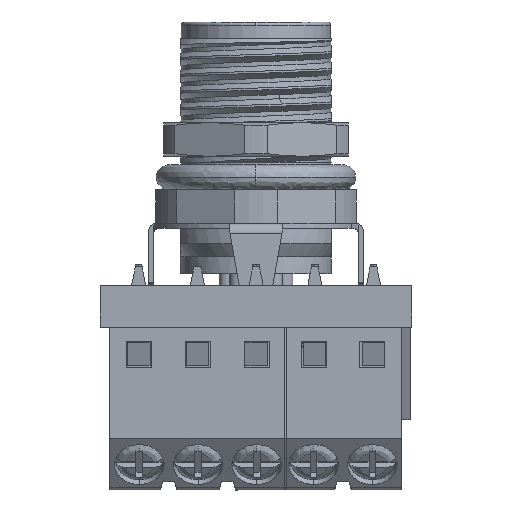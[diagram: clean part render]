
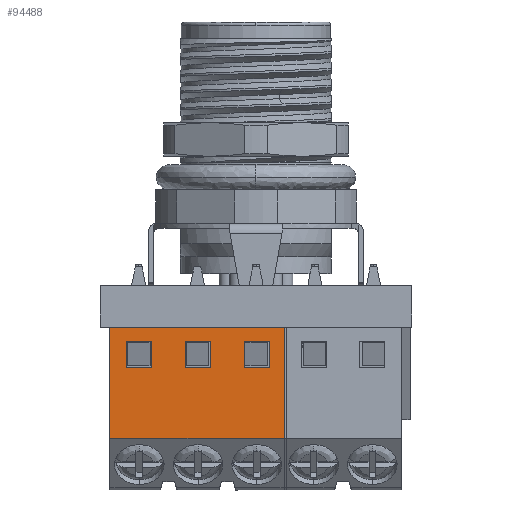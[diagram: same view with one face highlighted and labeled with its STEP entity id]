
A CAD part, left-side view. The second image highlights one B-rep face of the part: STEP entity #94488.
In plain terms, the highlighted planar face has unit normal (-1, 0, 0).
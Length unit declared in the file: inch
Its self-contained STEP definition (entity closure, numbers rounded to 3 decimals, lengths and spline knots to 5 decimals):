
#153 = CARTESIAN_POINT ( 'NONE',  ( -0.39764, -0.03937, -0.13031 ) ) ;
#486 = DIRECTION ( 'NONE',  ( 0., 0., -1. ) ) ;
#512 = VECTOR ( 'NONE', #82589, 39.37008 ) ;
#2300 = ORIENTED_EDGE ( 'NONE', *, *, #2577, .F. ) ;
#2531 = LINE ( 'NONE', #46534, #30513 ) ;
#2577 = EDGE_CURVE ( 'NONE', #52016, #7891, #63461, .T. ) ;
#2912 = EDGE_CURVE ( 'NONE', #76467, #70290, #52865, .T. ) ;
#3423 = DIRECTION ( 'NONE',  ( 0., -1., 0. ) ) ;
#4397 = CARTESIAN_POINT ( 'NONE',  ( -0.39764, -0.20669, -0.09449 ) ) ;
#4994 = EDGE_CURVE ( 'NONE', #73280, #76169, #7948, .T. ) ;
#5262 = CARTESIAN_POINT ( 'NONE',  ( -0.39764, -0.20669, -0.13031 ) ) ;
#5862 = EDGE_CURVE ( 'NONE', #41956, #44037, #80095, .T. ) ;
#7324 = CARTESIAN_POINT ( 'NONE',  ( -0.39764, -0.31496, -0.13031 ) ) ;
#7458 = EDGE_CURVE ( 'NONE', #72368, #67769, #20278, .T. ) ;
#7891 = VERTEX_POINT ( 'NONE', #72152 ) ;
#7900 = EDGE_CURVE ( 'NONE', #76169, #76467, #11968, .T. ) ;
#7948 = LINE ( 'NONE', #15837, #19742 ) ;
#8272 = DIRECTION ( 'NONE',  ( 0., -1., 0. ) ) ;
#8313 = CARTESIAN_POINT ( 'NONE',  ( -0.39764, -0.37402, -0.13031 ) ) ;
#9886 = EDGE_CURVE ( 'NONE', #70290, #73280, #32319, .T. ) ;
#11479 = EDGE_LOOP ( 'NONE', ( #30585, #42566, #78873, #48207 ) ) ;
#11532 = VERTEX_POINT ( 'NONE', #82710 ) ;
#11968 = LINE ( 'NONE', #88407, #36461 ) ;
#12927 = VERTEX_POINT ( 'NONE', #95755 ) ;
#13110 = VERTEX_POINT ( 'NONE', #22806 ) ;
#13367 = ORIENTED_EDGE ( 'NONE', *, *, #2912, .F. ) ;
#13650 = VECTOR ( 'NONE', #93299, 39.37008 ) ;
#14025 = ORIENTED_EDGE ( 'NONE', *, *, #7900, .F. ) ;
#14733 = LINE ( 'NONE', #78219, #66095 ) ;
#15830 = DIRECTION ( 'NONE',  ( 0., 1., 0. ) ) ;
#15837 = CARTESIAN_POINT ( 'NONE',  ( -0.39764, -0.20669, -0.09449 ) ) ;
#15863 = CARTESIAN_POINT ( 'NONE',  ( -0.39764, -0.17717, -0.09449 ) ) ;
#15887 = DIRECTION ( 'NONE',  ( 0., 0., 1. ) ) ;
#15939 = EDGE_CURVE ( 'NONE', #12927, #82815, #14733, .T. ) ;
#17054 = FACE_BOUND ( 'NONE', #86150, .T. ) ;
#18202 = FACE_OUTER_BOUND ( 'NONE', #11479, .T. ) ;
#18922 = LINE ( 'NONE', #8313, #95786 ) ;
#19429 = FACE_BOUND ( 'NONE', #47969, .T. ) ;
#19662 = DIRECTION ( 'NONE',  ( 0., 1., 0. ) ) ;
#19742 = VECTOR ( 'NONE', #8272, 39.37008 ) ;
#20278 = LINE ( 'NONE', #90758, #38828 ) ;
#20771 = DIRECTION ( 'NONE',  ( 0., 0., -1. ) ) ;
#21188 = CARTESIAN_POINT ( 'NONE',  ( -0.39764, -0.23622, -0.09449 ) ) ;
#22634 = CARTESIAN_POINT ( 'NONE',  ( -0.39764, -0.23622, -0.03346 ) ) ;
#22806 = CARTESIAN_POINT ( 'NONE',  ( -0.39764, -0.31496, -0.09449 ) ) ;
#25915 = ORIENTED_EDGE ( 'NONE', *, *, #15939, .F. ) ;
#26206 = EDGE_CURVE ( 'NONE', #67769, #44037, #55340, .T. ) ;
#26923 = EDGE_CURVE ( 'NONE', #7891, #36830, #44831, .T. ) ;
#27535 = DIRECTION ( 'NONE',  ( 0., 0., 1. ) ) ;
#28069 = EDGE_CURVE ( 'NONE', #31261, #12927, #18922, .T. ) ;
#29540 = DIRECTION ( 'NONE',  ( 0., 0., 1. ) ) ;
#30513 = VECTOR ( 'NONE', #77420, 39.37008 ) ;
#30585 = ORIENTED_EDGE ( 'NONE', *, *, #5862, .T. ) ;
#31092 = EDGE_CURVE ( 'NONE', #13110, #31261, #67016, .T. ) ;
#31154 = CARTESIAN_POINT ( 'NONE',  ( -0.39764, -0.17717, -0.03346 ) ) ;
#31261 = VERTEX_POINT ( 'NONE', #71457 ) ;
#32319 = LINE ( 'NONE', #65004, #76595 ) ;
#34653 = PLANE ( 'NONE',  #56505 ) ;
#36461 = VECTOR ( 'NONE', #27535, 39.37008 ) ;
#36830 = VERTEX_POINT ( 'NONE', #38250 ) ;
#38250 = CARTESIAN_POINT ( 'NONE',  ( -0.39764, -0.09843, -0.09449 ) ) ;
#38828 = VECTOR ( 'NONE', #15887, 39.37008 ) ;
#39730 = ORIENTED_EDGE ( 'NONE', *, *, #53404, .F. ) ;
#41242 = VECTOR ( 'NONE', #93664, 39.37008 ) ;
#41956 = VERTEX_POINT ( 'NONE', #53933 ) ;
#42566 = ORIENTED_EDGE ( 'NONE', *, *, #26206, .F. ) ;
#42632 = ORIENTED_EDGE ( 'NONE', *, *, #28069, .F. ) ;
#43732 = ORIENTED_EDGE ( 'NONE', *, *, #9886, .F. ) ;
#44037 = VERTEX_POINT ( 'NONE', #94580 ) ;
#44532 = DIRECTION ( 'NONE',  ( 0., 0., -1. ) ) ;
#44831 = LINE ( 'NONE', #4397, #69300 ) ;
#46534 = CARTESIAN_POINT ( 'NONE',  ( -0.39764, -0.09843, -0.13031 ) ) ;
#47969 = EDGE_LOOP ( 'NONE', ( #14025, #51267, #43732, #13367 ) ) ;
#48207 = ORIENTED_EDGE ( 'NONE', *, *, #94118, .F. ) ;
#49614 = DIRECTION ( 'NONE',  ( 1., 0., 0. ) ) ;
#51267 = ORIENTED_EDGE ( 'NONE', *, *, #4994, .F. ) ;
#52016 = VERTEX_POINT ( 'NONE', #87583 ) ;
#52865 = LINE ( 'NONE', #63048, #41242 ) ;
#52918 = CARTESIAN_POINT ( 'NONE',  ( -0.39764, -0.20669, -0.26063 ) ) ;
#53080 = FACE_BOUND ( 'NONE', #75619, .T. ) ;
#53142 = EDGE_CURVE ( 'NONE', #82815, #13110, #93137, .T. ) ;
#53199 = VECTOR ( 'NONE', #15830, 39.37008 ) ;
#53404 = EDGE_CURVE ( 'NONE', #11532, #52016, #66303, .T. ) ;
#53933 = CARTESIAN_POINT ( 'NONE',  ( -0.39764, -0.41339, -0.26063 ) ) ;
#55340 = LINE ( 'NONE', #60414, #512 ) ;
#56505 = AXIS2_PLACEMENT_3D ( 'NONE', #5262, #49614, #86071 ) ;
#57196 = CARTESIAN_POINT ( 'NONE',  ( -0.39764, -0.31496, -0.03346 ) ) ;
#60414 = CARTESIAN_POINT ( 'NONE',  ( -0.39764, -0.1378, 0. ) ) ;
#61091 = VECTOR ( 'NONE', #486, 39.37008 ) ;
#63048 = CARTESIAN_POINT ( 'NONE',  ( -0.39764, -0.20669, -0.03346 ) ) ;
#63461 = LINE ( 'NONE', #153, #61091 ) ;
#65004 = CARTESIAN_POINT ( 'NONE',  ( -0.39764, -0.17717, -0.13031 ) ) ;
#65118 = ORIENTED_EDGE ( 'NONE', *, *, #26923, .F. ) ;
#65894 = VECTOR ( 'NONE', #93290, 39.37008 ) ;
#66075 = ORIENTED_EDGE ( 'NONE', *, *, #53142, .F. ) ;
#66095 = VECTOR ( 'NONE', #19662, 39.37008 ) ;
#66303 = LINE ( 'NONE', #87404, #75553 ) ;
#67016 = LINE ( 'NONE', #78299, #65894 ) ;
#67769 = VERTEX_POINT ( 'NONE', #96216 ) ;
#69300 = VECTOR ( 'NONE', #3423, 39.37008 ) ;
#70290 = VERTEX_POINT ( 'NONE', #31154 ) ;
#71457 = CARTESIAN_POINT ( 'NONE',  ( -0.39764, -0.37402, -0.09449 ) ) ;
#72152 = CARTESIAN_POINT ( 'NONE',  ( -0.39764, -0.03937, -0.09449 ) ) ;
#72368 = VERTEX_POINT ( 'NONE', #83584 ) ;
#73280 = VERTEX_POINT ( 'NONE', #15863 ) ;
#74195 = ORIENTED_EDGE ( 'NONE', *, *, #31092, .F. ) ;
#75354 = LINE ( 'NONE', #52918, #53199 ) ;
#75553 = VECTOR ( 'NONE', #86090, 39.37008 ) ;
#75619 = EDGE_LOOP ( 'NONE', ( #65118, #2300, #39730, #95369 ) ) ;
#76169 = VERTEX_POINT ( 'NONE', #21188 ) ;
#76467 = VERTEX_POINT ( 'NONE', #22634 ) ;
#76595 = VECTOR ( 'NONE', #20771, 39.37008 ) ;
#77420 = DIRECTION ( 'NONE',  ( 0., 0., 1. ) ) ;
#77670 = CARTESIAN_POINT ( 'NONE',  ( -0.39764, -0.41339, -0.19095 ) ) ;
#78219 = CARTESIAN_POINT ( 'NONE',  ( -0.39764, -0.20669, -0.03346 ) ) ;
#78299 = CARTESIAN_POINT ( 'NONE',  ( -0.39764, -0.20669, -0.09449 ) ) ;
#78873 = ORIENTED_EDGE ( 'NONE', *, *, #7458, .F. ) ;
#80095 = LINE ( 'NONE', #77670, #13650 ) ;
#82589 = DIRECTION ( 'NONE',  ( 0., -1., 0. ) ) ;
#82710 = CARTESIAN_POINT ( 'NONE',  ( -0.39764, -0.09843, -0.03346 ) ) ;
#82815 = VERTEX_POINT ( 'NONE', #57196 ) ;
#83584 = CARTESIAN_POINT ( 'NONE',  ( -0.39764, 0., -0.26063 ) ) ;
#84090 = EDGE_CURVE ( 'NONE', #36830, #11532, #2531, .T. ) ;
#86071 = DIRECTION ( 'NONE',  ( 0., 0., -1. ) ) ;
#86090 = DIRECTION ( 'NONE',  ( 0., 1., 0. ) ) ;
#86150 = EDGE_LOOP ( 'NONE', ( #25915, #42632, #74195, #66075 ) ) ;
#87351 = VECTOR ( 'NONE', #44532, 39.37008 ) ;
#87404 = CARTESIAN_POINT ( 'NONE',  ( -0.39764, -0.20669, -0.03346 ) ) ;
#87583 = CARTESIAN_POINT ( 'NONE',  ( -0.39764, -0.03937, -0.03346 ) ) ;
#88407 = CARTESIAN_POINT ( 'NONE',  ( -0.39764, -0.23622, -0.13031 ) ) ;
#90758 = CARTESIAN_POINT ( 'NONE',  ( -0.39764, 0., -0.13031 ) ) ;
#93137 = LINE ( 'NONE', #7324, #87351 ) ;
#93290 = DIRECTION ( 'NONE',  ( 0., -1., 0. ) ) ;
#93299 = DIRECTION ( 'NONE',  ( 0., 0., 1. ) ) ;
#93664 = DIRECTION ( 'NONE',  ( 0., 1., 0. ) ) ;
#94118 = EDGE_CURVE ( 'NONE', #41956, #72368, #75354, .T. ) ;
#94488 = ADVANCED_FACE ( 'NONE', ( #17054, #19429, #53080, #18202 ), #34653, .F. ) ;
#94580 = CARTESIAN_POINT ( 'NONE',  ( -0.39764, -0.41339, 0. ) ) ;
#95369 = ORIENTED_EDGE ( 'NONE', *, *, #84090, .F. ) ;
#95755 = CARTESIAN_POINT ( 'NONE',  ( -0.39764, -0.37402, -0.03346 ) ) ;
#95786 = VECTOR ( 'NONE', #29540, 39.37008 ) ;
#96216 = CARTESIAN_POINT ( 'NONE',  ( -0.39764, 0., 0. ) ) ;
